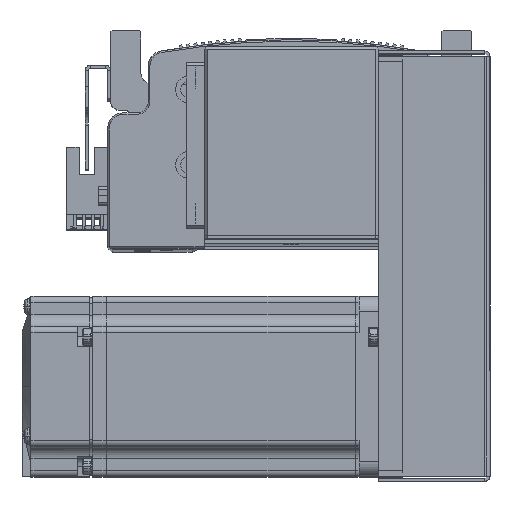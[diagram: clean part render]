
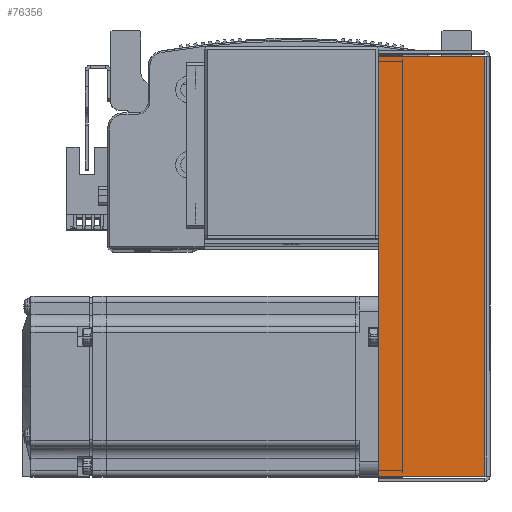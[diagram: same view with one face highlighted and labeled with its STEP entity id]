
A CAD part, top view. The second image highlights one B-rep face of the part: STEP entity #76356.
In plain terms, the highlighted planar face has unit normal (0, 0, 1).
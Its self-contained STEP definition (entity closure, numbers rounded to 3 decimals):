
#721 = EDGE_LOOP ( 'NONE', ( #36158, #36188, #36035, #36124 ) ) ;
#1903 = VECTOR ( 'NONE', #9154, 1000. ) ;
#1926 = VECTOR ( 'NONE', #9182, 1000. ) ;
#1963 = LINE ( 'NONE', #9123, #1903 ) ;
#1989 = LINE ( 'NONE', #9179, #1926 ) ;
#8897 = CARTESIAN_POINT ( 'NONE',  ( 69.793, 0., 33.5 ) ) ;
#8898 = DIRECTION ( 'NONE',  ( 0., 1., 0. ) ) ;
#8981 = CARTESIAN_POINT ( 'NONE',  ( -69.793, 0., 33.5 ) ) ;
#9051 = DIRECTION ( 'NONE',  ( 0., 1., 0. ) ) ;
#9123 = CARTESIAN_POINT ( 'NONE',  ( -71.5, 0.737, 33.5 ) ) ;
#9154 = DIRECTION ( 'NONE',  ( -1., 0., 0. ) ) ;
#9179 = CARTESIAN_POINT ( 'NONE',  ( 0., 36., 33.5 ) ) ;
#9182 = DIRECTION ( 'NONE',  ( -1., 0., 0. ) ) ;
#10697 = DIRECTION ( 'NONE',  ( 0., 0., -1. ) ) ;
#10717 = PLANE ( 'NONE',  #32108 ) ;
#10719 = CARTESIAN_POINT ( 'NONE',  ( 0., 0., 33.5 ) ) ;
#10720 = DIRECTION ( 'NONE',  ( -1., 0., 0. ) ) ;
#13256 = LINE ( 'NONE', #8897, #13263 ) ;
#13263 = VECTOR ( 'NONE', #8898, 1000. ) ;
#15062 = LINE ( 'NONE', #8981, #15234 ) ;
#15234 = VECTOR ( 'NONE', #9051, 1000. ) ;
#16546 = VERTEX_POINT ( 'NONE', #32812 ) ;
#16569 = VERTEX_POINT ( 'NONE', #47008 ) ;
#16616 = VERTEX_POINT ( 'NONE', #46286 ) ;
#16649 = VERTEX_POINT ( 'NONE', #46677 ) ;
#32108 = AXIS2_PLACEMENT_3D ( 'NONE', #10719, #10697, #10720 ) ;
#32812 = CARTESIAN_POINT ( 'NONE',  ( 69.793, 0.737, 33.5 ) ) ;
#34828 = FACE_OUTER_BOUND ( 'NONE', #721, .T. ) ;
#36035 = ORIENTED_EDGE ( 'NONE', *, *, #42278, .T. ) ;
#36124 = ORIENTED_EDGE ( 'NONE', *, *, #42234, .F. ) ;
#36158 = ORIENTED_EDGE ( 'NONE', *, *, #42264, .F. ) ;
#36188 = ORIENTED_EDGE ( 'NONE', *, *, #42204, .T. ) ;
#42204 = EDGE_CURVE ( 'NONE', #16546, #16569, #13256, .T. ) ;
#42234 = EDGE_CURVE ( 'NONE', #16649, #16616, #15062, .T. ) ;
#42264 = EDGE_CURVE ( 'NONE', #16546, #16649, #1963, .T. ) ;
#42278 = EDGE_CURVE ( 'NONE', #16569, #16616, #1989, .T. ) ;
#46286 = CARTESIAN_POINT ( 'NONE',  ( -69.793, 36., 33.5 ) ) ;
#46677 = CARTESIAN_POINT ( 'NONE',  ( -69.793, 0.737, 33.5 ) ) ;
#47008 = CARTESIAN_POINT ( 'NONE',  ( 69.793, 36., 33.5 ) ) ;
#76356 = ADVANCED_FACE ( 'NONE', ( #34828 ), #10717, .F. ) ;
